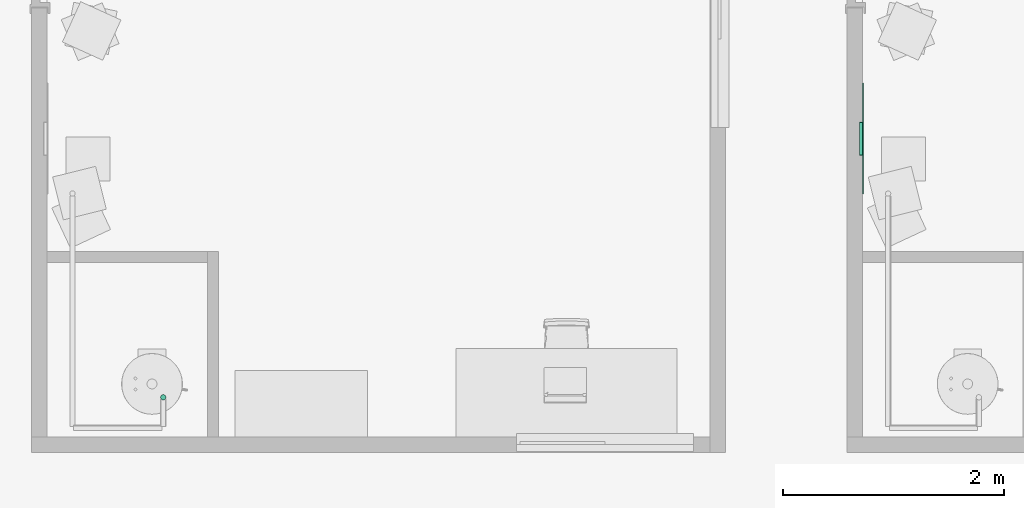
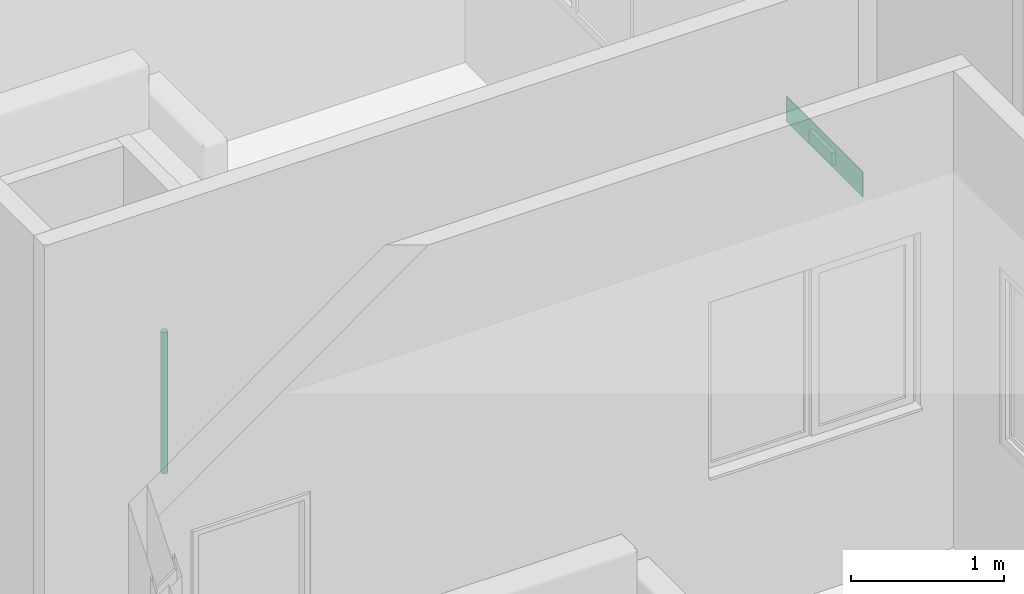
# One storey, part 18 of 71: 1 air terminal, 1 pipe segment.
"""IFC4 building model written with IfcOpenShell, lengths in centimetres."""

from ifc_helpers import new_model, entity, si_unit, converted_unit, derived_unit, direction, frame, origin, place, context, subcontext, project, spatial, arc, indexed_curve, outline, extrude, source, transform, mapped, material, constituent, constituent_set, type_object, type_shapes, element, save


model = new_model("IFC4")

# Units and contexts
model_context = context("Model", 3, precision=0.001, world=origin(), true_north=direction((6.123233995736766e-17, 1.0)))
body_context = subcontext(model_context, "Body", "Model", "MODEL_VIEW")
ifc_project = project(units=[si_unit("LENGTHUNIT", "METRE", prefix="CENTI"), si_unit("AREAUNIT", "SQUARE_METRE"), si_unit("VOLUMEUNIT", "CUBIC_METRE"), derived_unit("THERMALTRANSMITTANCEUNIT", [(si_unit("MASSUNIT", "GRAM", prefix="KILO"), 1), (si_unit("THERMODYNAMICTEMPERATUREUNIT", "KELVIN"), -1), (si_unit("TIMEUNIT", "SECOND"), -3)]), converted_unit("PLANEANGLEUNIT", "DEGREE", entity("IfcPlaneAngleMeasure", 0.017453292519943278), si_unit("PLANEANGLEUNIT", "RADIAN"), dimensions=[0, 0, 0, 0, 0, 0, 0]), derived_unit("MASSDENSITYUNIT", [(si_unit("MASSUNIT", "GRAM", prefix="KILO"), 1), (si_unit("LENGTHUNIT", "METRE"), -3)]), derived_unit("VAPORPERMEABILITYUNIT", [(si_unit("LENGTHUNIT", "METRE"), -1), (si_unit("TIMEUNIT", "SECOND"), 1)]), derived_unit("USERDEFINED", [(si_unit("MASSUNIT", "GRAM", prefix="KILO"), 1), (si_unit("TIMEUNIT", "SECOND"), -3), (si_unit("LENGTHUNIT", "METRE"), 3), (si_unit("ELECTRICCURRENTUNIT", "AMPERE"), -2)]), derived_unit("SPECIFICHEATCAPACITYUNIT", [(si_unit("THERMODYNAMICTEMPERATUREUNIT", "KELVIN"), -1), (si_unit("LENGTHUNIT", "METRE"), 2), (si_unit("TIMEUNIT", "SECOND"), -2)]), derived_unit("THERMALCONDUCTANCEUNIT", [(si_unit("MASSUNIT", "GRAM", prefix="KILO"), 1), (si_unit("THERMODYNAMICTEMPERATUREUNIT", "KELVIN"), -1), (si_unit("TIMEUNIT", "SECOND"), -3), (si_unit("LENGTHUNIT", "METRE"), 1)]), si_unit("PRESSUREUNIT", "PASCAL"), derived_unit("MODULUSOFELASTICITYUNIT", [(si_unit("MASSUNIT", "GRAM", prefix="KILO"), 1), (si_unit("LENGTHUNIT", "METRE"), -1), (si_unit("TIMEUNIT", "SECOND"), -2)]), derived_unit("THERMALEXPANSIONCOEFFICIENTUNIT", [(si_unit("THERMODYNAMICTEMPERATUREUNIT", "KELVIN"), -1)])], contexts=[model_context])

# Site, building, storey, space
site_placement = place(None, origin())
site = spatial("IfcSite", under=ifc_project, at=site_placement, Name="Default", CompositionType="ELEMENT")
building_placement = place(site_placement, origin())
building = spatial("IfcBuilding", under=site, at=building_placement, Name="IDS Escape Game Building", CompositionType="ELEMENT")
storey_placement = place(building_placement, frame((0.0, 0.0, 400.0)))
storey = spatial("IfcBuildingStorey", under=building, at=storey_placement, Name="01_First Floor", CompositionType="ELEMENT", Elevation=399.99999999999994)
space_placement = place(storey_placement, origin())
space = spatial("IfcSpace", under=storey, at=space_placement, Name="52", CompositionType="ELEMENT", PredefinedType="NOTDEFINED")

# Air terminal
ifc_material_1 = material(Name="TB_LVC_referentievlak_00_gen_BERSnl", Category="BE Default")
ifc_constituent_1 = constituent(ifc_material_1, Name="TB_LVC_referentievlak_00_gen_BERSnl", Category="BE Default", fraction=0.00014157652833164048)
ifc_material_2 = material(Name="ARC_FME.h2_staal_00_gen_BERSnl", Category="h - metaal")
ifc_constituent_2 = constituent(ifc_material_2, Name="ARC_FME.h2_staal_00_gen_BERSnl", Category="h - metaal", fraction=0.9998584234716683)
ifc_constituent_set_1 = constituent_set(constituents=[ifc_constituent_1, ifc_constituent_2])
ifc_constituent_3 = constituent(ifc_material_1, Name="BE Referentievlak", Category="BE Default", fraction=0.00014157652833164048)
ifc_constituent_4 = constituent(ifc_material_2, Name="Terminals", Category="h - metaal", fraction=0.9998584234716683)
ifc_constituent_set_2 = constituent_set(constituents=[ifc_constituent_3, ifc_constituent_4])
air_terminal_type = type_object("IfcAirTerminalType", Name="TB_57_AIR_FB_aanzuigrooster - 1 rechthoekige aansluiting - calculated flow_gen_BERSnl:Air Terminal - Exhaust", PredefinedType="GRILLE", material=ifc_constituent_set_2)
shared_shape = source(origin(), body_context, "Body", "SweptSolid", [
    extrude(outline(indexed_curve([(-0.5, -2.0290176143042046e-15), (6.8507733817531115e-16, -0.5000000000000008), (0.5, 2.0290176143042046e-15), (-5.361679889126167e-16, 0.49999999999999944)], segments=[arc(1, 2, 3), arc(3, 4, 1)], self_intersect=False)), frame((0.0, 0.0, 0.0), z_axis=(1.7453292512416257e-05, 0.0, 1.0), x_axis=(0.0, 1.0, 0.0)), (0.0, 0.0, 1.0), 0.09999999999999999),
    extrude(outline(indexed_curve([(-14.900000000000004, -4.9), (14.900000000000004, -4.9), (14.900000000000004, 4.9), (-14.900000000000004, 4.9), (-14.900000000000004, -4.9)], self_intersect=False)), frame((-4.886921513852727e-05, 0.0, -2.7999999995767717)), (0.0, 0.0, 1.0), 2.7999999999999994),
    extrude(outline(indexed_curve([(-50.0, -10.0), (50.0, -10.0), (50.0, 10.0), (-50.0, 10.0), (-50.0, -10.0)], self_intersect=False)), frame((0.0, 0.0, 0.0), z_axis=(0.0, 0.0, 1.0), x_axis=(-1.0, 0.0, 0.0)), (0.0, 0.0, 1.0), 0.6999999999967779),
])
type_shapes(air_terminal_type, [shared_shape])
air_terminal_placement = place(space_placement, frame((1483.0, 1559.0, 24.0), z_axis=(1.0, 0.0, 0.0), x_axis=(0.0, 1.0, 0.0)))
element("IfcAirTerminal", 1, at=air_terminal_placement, inside=space, type_object=air_terminal_type, material=ifc_constituent_set_1, Name="TB_57_AIR_FB_aanzuigrooster - 1 rechthoekige aansluiting - calculated flow_gen_BERSnl:Air Terminal - Exhaust", ObjectType="TB_57_AIR_FB_aanzuigrooster - 1 rechthoekige aansluiting - calculated flow_gen_BERSnl:Air Terminal - Exhaust", PredefinedType="GRILLE", context=body_context, shape_type="MappedRepresentation", body=[
    mapped(shared_shape, transform((0.0, 0.0, 0.0), scale=1.0)),
])

# Pipe segment
pipe_segment_type = type_object("IfcPipeSegmentType", Name="Pipe Types:Piping Aluminum", PredefinedType="NOTDEFINED")
pipe_segment_placement = place(storey_placement, origin())
element("IfcPipeSegment", 2, at=pipe_segment_placement, inside=storey, type_object=pipe_segment_type, Name="Pipe Types:Piping Aluminum", ObjectType="Pipe Types:Piping Aluminum", PredefinedType="NOTDEFINED", context=body_context, shape_type="SweptSolid", body=[
    extrude(outline(indexed_curve([(2.412999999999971, 0.0), (1.7062486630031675, 1.7062486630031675), (0.0, 2.412999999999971), (-1.7062486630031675, 1.7062486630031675), (-2.412999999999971, 0.0), (-1.7062486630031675, -1.7062486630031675), (0.0, -2.412999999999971), (1.7062486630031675, -1.7062486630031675)], segments=[arc(1, 2, 3), arc(3, 4, 5), arc(5, 6, 7), arc(7, 8, 1)], self_intersect=False)), frame((850.1500000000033, 1324.900000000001, 128.0), z_axis=(0.0, 0.0, 1.0), x_axis=(-1.0, 0.0, 0.0)), (0.0, 0.0, 1.0), 112.90000000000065),
])

save(model, "model.ifc")
